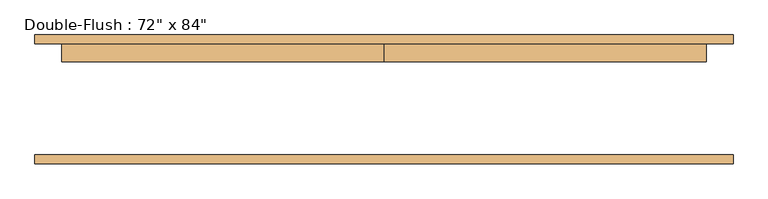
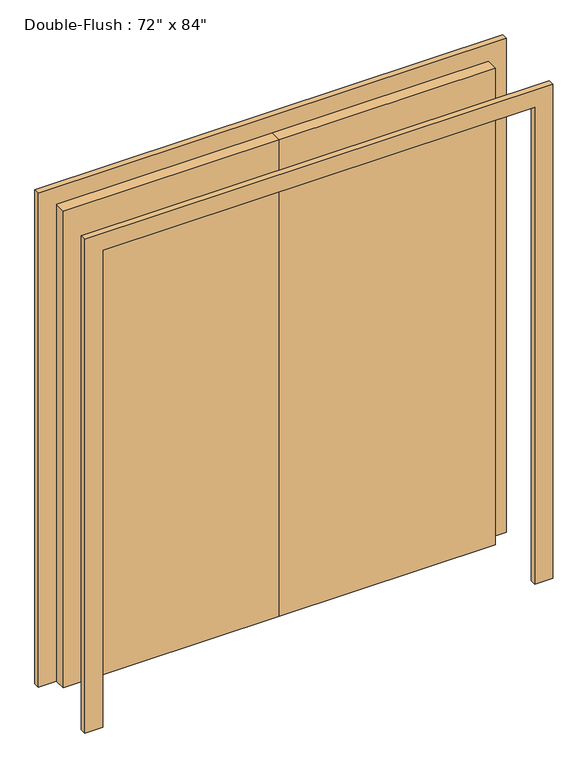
"""IFC4 building model written with IfcOpenShell, lengths in millimetres: door geometry."""

from ifc_helpers import new_model, si_unit, frame, origin, origin_with_axes, place, context, project, spatial, polyline, outline, extrude, source, transform, mapped, element, save


def door_6b4fb47b(model_context):
    return source(origin(), model_context, "Body", "SweptSolid", [
        extrude(outline(polyline([(0.0, 157.1625), (914.4, 157.1625), (914.4, 106.3625), (0.0, 106.3625), (0.0, 157.1625)])), origin_with_axes(), (0.0, 0.0, 1.0), 2133.6),
        extrude(outline(polyline([(-914.4, 157.1625), (0.0, 157.1625), (0.0, 106.3625), (-914.4, 106.3625), (-914.4, 157.1625)])), origin_with_axes(), (0.0, 0.0, 1.0), 2133.6),
        extrude(outline(polyline([(2133.6, -914.4), (2133.6, 914.4), (0.0, 914.4), (0.0, 990.6), (2209.8, 990.6), (2209.8, -990.6), (0.0, -990.6), (0.0, -914.4), (2133.6, -914.4)])), frame((0.0, -182.5625, 0.0), z_axis=(0.0, 1.0, 0.0), x_axis=(0.0, 0.0, 1.0)), (0.0, 0.0, 1.0), 25.4),
        extrude(outline(polyline([(2133.6, -914.4), (2133.6, 914.4), (0.0, 914.4), (0.0, 990.6), (2209.8, 990.6), (2209.8, -990.6), (0.0, -990.6), (0.0, -914.4), (2133.6, -914.4)])), frame((0.0, 157.1625, 0.0), z_axis=(0.0, 1.0, 0.0), x_axis=(0.0, 0.0, 1.0)), (0.0, 0.0, 1.0), 25.4),
    ])


if __name__ == "__main__":
    model = new_model("IFC4")
    model_context = context("Model", 3, world=origin())
    ifc_project = project(units=[si_unit("LENGTHUNIT", "METRE", prefix="MILLI")], contexts=[model_context])
    site = spatial("IfcSite", under=ifc_project)
    building = spatial("IfcBuilding", under=site)
    placement = place(None, origin())
    door_shape = door_6b4fb47b(model_context)
    element("IfcDoor", 1, ObjectType="Double-Flush : 72\" x 84\"", at=placement, inside=building, context=model_context, shape_type="MappedRepresentation", body=[
        mapped(door_shape, transform((0.0, 0.0, 0.0), x_axis=(1.0, 0.0, 0.0), y_axis=(0.0, 1.0, 0.0), z_axis=(0.0, 0.0, 1.0))),
    ])
    save(model, "model.ifc")
